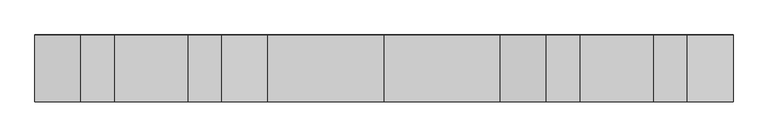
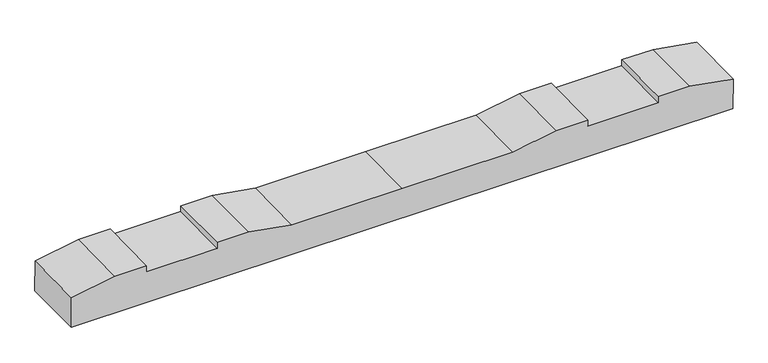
"""IFC4 building model written with IfcOpenShell, lengths in millimetres: proxy geometry, 轨枕-立面角度 : 轨枕-立面角度."""

import ifcopenshell
import ifcopenshell.guid

model = None  # the IFC model being written
_history = None  # IfcOwnerHistory: only IFC2X3 demands one
_inside = {}  # id of a spatial element -> (the spatial element, [elements in it])
_under = {}  # id of a project, library or spatial element -> (it, [spatial elements below it])
_declared = {}  # id of a project -> (the project, [libraries it declares])
_typed = {}  # id of a type object -> (the type object, [elements of that type])
_made_of = {}  # id of a material, layer set ... -> (it, [elements and type objects made of it])


def new_model(schema):
    """Start an empty IFC model of exactly this schema.

    Asked for "IFC4X3", IfcOpenShell would pick the latest addendum, in which some entities
    have other attributes; the version numbers below select the first issue.
    IFC2X3 requires an IfcOwnerHistory on every rooted entity: one is made here for all.
    """
    global model, _history
    if schema == "IFC4X3":
        model = ifcopenshell.file(schema_version=(4, 3, 0, 0))
    else:
        model = ifcopenshell.file(schema=schema)
    _inside.clear()
    _under.clear()
    _declared.clear()
    _typed.clear()
    _made_of.clear()
    _history = None
    if model.schema == "IFC2X3":
        org = make("IfcOrganization", Name="unknown")
        user = make(
            "IfcPersonAndOrganization",
            ThePerson=make("IfcPerson", FamilyName="unknown"),
            TheOrganization=org,
        )
        app = make(
            "IfcApplication",
            ApplicationDeveloper=org,
            Version="unknown",
            ApplicationFullName="unknown",
            ApplicationIdentifier="unknown",
        )
        _history = make(
            "IfcOwnerHistory",
            OwningUser=user,
            OwningApplication=app,
            ChangeAction="ADDED",
            CreationDate=0,
        )
    return model


def make(cls, **values):
    """One entity of the class cls with the attributes given. An attribute that is None is left unset."""
    return model.create_entity(
        cls, **{name: value for name, value in values.items() if value is not None}
    )


def rooted(cls, **values):
    """An entity with a GlobalId (a new one), such as an element, a storey or a relation."""
    return make(cls, GlobalId=ifcopenshell.guid.new(), OwnerHistory=_history, **values)


def si_unit(unit_type, name, prefix=None):
    """IfcSIUnit, for example si_unit("LENGTHUNIT", "METRE", prefix="MILLI")."""
    return make("IfcSIUnit", UnitType=unit_type, Prefix=prefix, Name=name)


def assignment(units):
    """IfcUnitAssignment: the units of a project."""
    return None if units is None else make("IfcUnitAssignment", Units=units)


def point(xyz):
    """IfcCartesianPoint."""
    return None if xyz is None else make("IfcCartesianPoint", Coordinates=xyz)


def direction(xyz):
    """IfcDirection."""
    return None if xyz is None else make("IfcDirection", DirectionRatios=xyz)


def frame(location, z_axis=None, x_axis=None):
    """IfcAxis2Placement3D, a coordinate frame: its origin and axes. An axis left out is left unset."""
    return make(
        "IfcAxis2Placement3D",
        Location=point(location),
        Axis=direction(z_axis),
        RefDirection=direction(x_axis),
    )


def origin():
    """The frame at (0, 0, 0) with its axes left unset."""
    return frame((0.0, 0.0, 0.0))


def place(relative_to, where):
    """IfcLocalPlacement: puts the frame where relative to a parent placement (None: the world)."""
    return make(
        "IfcLocalPlacement", PlacementRelTo=relative_to, RelativePlacement=where
    )


def context(
    kind, dimensions, precision=None, world=None, true_north=None, identifier=None
):
    """IfcGeometricRepresentationContext, for example the 3D "Model" context."""
    return make(
        "IfcGeometricRepresentationContext",
        ContextIdentifier=identifier,
        ContextType=kind,
        CoordinateSpaceDimension=dimensions,
        Precision=precision,
        WorldCoordinateSystem=world,
        TrueNorth=true_north,
    )


def project(units=None, contexts=None):
    """IfcProject with its units and contexts."""
    return rooted(
        "IfcProject",
        Name="project",
        RepresentationContexts=contexts,
        UnitsInContext=assignment(units),
    )


def spatial(cls, under=None, at=None, **own):
    """A site, building, storey or space (cls), placed at a placement, below another one or the project."""
    s = rooted(cls, ObjectPlacement=at, **own)
    if under is not None:
        _under.setdefault(under.id(), (under, []))[1].append(s)
    return s


def polyline(points):
    """IfcPolyline through the points."""
    return make("IfcPolyline", Points=[point(p) for p in points])


def outline(outer, holes=None, kind="AREA"):
    """IfcArbitraryClosedProfileDef: a profile drawn as a closed curve; with holes, ...WithVoids."""
    if holes is None:
        return make("IfcArbitraryClosedProfileDef", ProfileType=kind, OuterCurve=outer)
    return make(
        "IfcArbitraryProfileDefWithVoids",
        ProfileType=kind,
        OuterCurve=outer,
        InnerCurves=holes,
    )


def extrude(swept, where, along, depth):
    """IfcExtrudedAreaSolid: the profile swept, set in the frame where, extruded along a direction by depth."""
    return make(
        "IfcExtrudedAreaSolid",
        SweptArea=swept,
        Position=where,
        ExtrudedDirection=direction(along),
        Depth=depth,
    )


def shape(context_of_items, identifier, shape_type, items):
    """IfcShapeRepresentation: the items that make up one representation, for example the "Body"."""
    return make(
        "IfcShapeRepresentation",
        ContextOfItems=context_of_items,
        RepresentationIdentifier=identifier,
        RepresentationType=shape_type,
        Items=items,
    )


def source(mapping_origin, context_of_items, identifier, shape_type, items):
    """IfcRepresentationMap: a shape defined once, which mapped items show again and again."""
    return make(
        "IfcRepresentationMap",
        MappingOrigin=mapping_origin,
        MappedRepresentation=shape(context_of_items, identifier, shape_type, items),
    )


def transform(
    local_origin,
    x_axis=None,
    y_axis=None,
    z_axis=None,
    scale=None,
    scale2=None,
    scale3=None,
    uniform=True,
):
    """IfcCartesianTransformationOperator3D, or its non-uniform kind. x_axis, y_axis, z_axis: its Axis1, 2, 3."""
    if uniform:
        return make(
            "IfcCartesianTransformationOperator3D",
            Axis1=direction(x_axis),
            Axis2=direction(y_axis),
            LocalOrigin=point(local_origin),
            Scale=scale,
            Axis3=direction(z_axis),
        )
    return make(
        "IfcCartesianTransformationOperator3DnonUniform",
        Axis1=direction(x_axis),
        Axis2=direction(y_axis),
        LocalOrigin=point(local_origin),
        Scale=scale,
        Axis3=direction(z_axis),
        Scale2=scale2,
        Scale3=scale3,
    )


def mapped(mapping_source, mapping_target):
    """IfcMappedItem: shows the shape of a source again, moved by a transform."""
    return make(
        "IfcMappedItem", MappingSource=mapping_source, MappingTarget=mapping_target
    )


def made_of(thing, what):
    """Note that an element or type object is made of a material, layer set ...; save() writes the relation."""
    if what is not None:
        _made_of.setdefault(what.id(), (what, []))[1].append(thing)
    return thing


def element(
    cls,
    number,
    at=None,
    inside=None,
    cuts=None,
    type_object=None,
    material=None,
    context=None,
    identifier="Body",
    shape_type=None,
    held_by="IfcProductDefinitionShape",
    body=None,
    shapes=None,
    **own,
):
    """One element of the class cls, such as IfcWall. Its Tag is "e" and its number.

    at: its placement. inside: the storey or other place that contains it. cuts: it is an
    opening in that element (IfcRelVoidsElement). A single representation is given by context,
    identifier, shape_type and body (its items); several are given by shapes. held_by: the class
    of the entity that holds the representations. save() writes the other relations.
    """
    e = rooted(cls, Tag="e%d" % number, ObjectPlacement=at, **own)
    if body is not None:
        shapes = [shape(context, identifier, shape_type, body)]
    if shapes is not None:
        e.Representation = make(held_by, Representations=shapes)
    if inside is not None:
        _inside.setdefault(inside.id(), (inside, []))[1].append(e)
    if cuts is not None:
        rooted(
            "IfcRelVoidsElement", RelatingBuildingElement=cuts, RelatedOpeningElement=e
        )
    if type_object is not None:
        _typed.setdefault(type_object.id(), (type_object, []))[1].append(e)
    return made_of(e, material)


def aggregate(whole, parts):
    """IfcRelAggregates: a whole, such as a stair, and the parts it consists of."""
    return rooted("IfcRelAggregates", RelatingObject=whole, RelatedObjects=parts)


def save(model, path):
    """Write the relations noted so far, then the file.

    IfcRelAggregates (storeys below a building ...), IfcRelContainedInSpatialStructure (elements
    in a storey), IfcRelDefinesByType, IfcRelAssociatesMaterial and IfcRelDeclares: one each for
    every whole, place, type object, material and project.
    """
    for whole, parts in _under.values():
        aggregate(whole, parts)
    for where, things in _inside.values():
        rooted(
            "IfcRelContainedInSpatialStructure",
            RelatedElements=things,
            RelatingStructure=where,
        )
    for kind, things in _typed.values():
        rooted("IfcRelDefinesByType", RelatedObjects=things, RelatingType=kind)
    for what, things in _made_of.values():
        rooted("IfcRelAssociatesMaterial", RelatedObjects=things, RelatingMaterial=what)
    for by, libraries in _declared.values():
        rooted("IfcRelDeclares", RelatingContext=by, RelatedDefinitions=libraries)
    model.write(path)


def generic_models_d8a670aa(model_context):
    return source(origin(), model_context, "Body", "SweptSolid", [
        extrude(outline(polyline([(0.0, 0.0), (2099.7669328, 0.0), (2099.7669328, -100.020689), (1961.8834664, -124.5), (1861.8834664, -124.5), (1861.8834664, -104.5), (1637.8834664, -104.5), (1637.8834664, -124.5), (1537.8834664, -124.5), (1399.8834664, -100.0), (1049.8834664, -100.0), (699.8834664, -100.0), (561.8834664, -124.5), (461.8834664, -124.5), (461.8834664, -104.5), (237.8834664, -104.5), (237.8834664, -124.5), (137.8834664, -124.5), (0.0, -100.020689), (0.0, 0.0)])), frame((-1049.8834664, -98.8324813, -105.6048799), z_axis=(0.0, 0.9999382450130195, 0.01111333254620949), x_axis=(1.0, 0.0, 0.0)), (0.0, 0.0, 1.0), 200.0),
    ])


if __name__ == "__main__":
    model = new_model("IFC4")
    model_context = context("Model", 3, world=origin())
    ifc_project = project(units=[si_unit("LENGTHUNIT", "METRE", prefix="MILLI")], contexts=[model_context])
    site = spatial("IfcSite", under=ifc_project)
    building = spatial("IfcBuilding", under=site)
    placement = place(None, origin())
    generic_models_shape = generic_models_d8a670aa(model_context)
    element("IfcBuildingElementProxy", 1, Name="轨枕-立面角度 : 轨枕-立面角度", ObjectType="轨枕-立面角度 : 轨枕-立面角度", at=placement, inside=building, context=model_context, shape_type="MappedRepresentation", body=[
        mapped(generic_models_shape, transform((0.0, 0.0, 0.0), x_axis=(1.0, 0.0, 0.0), y_axis=(0.0, 1.0, 0.0), z_axis=(0.0, 0.0, 1.0))),
    ])
    save(model, "model.ifc")
